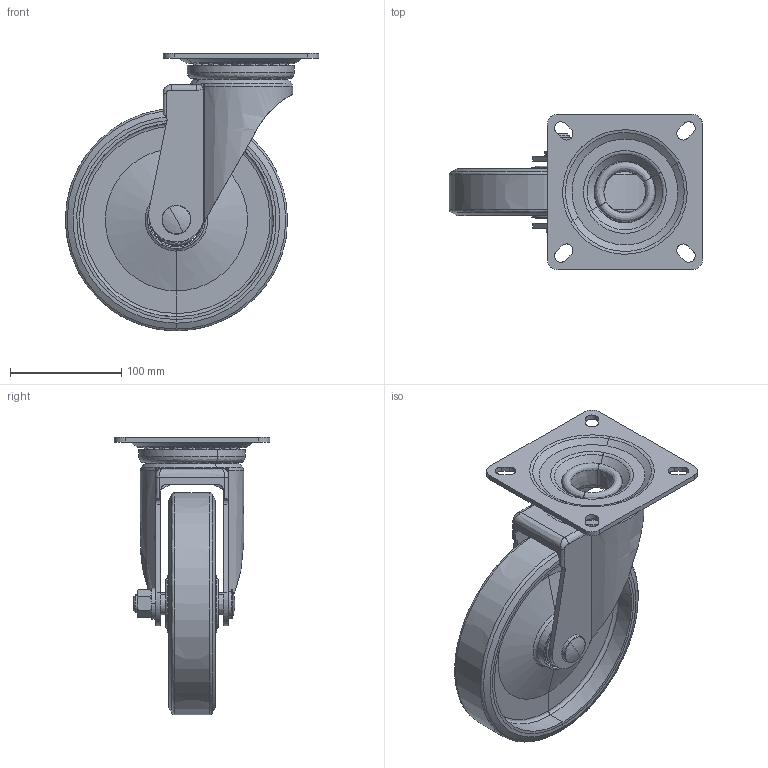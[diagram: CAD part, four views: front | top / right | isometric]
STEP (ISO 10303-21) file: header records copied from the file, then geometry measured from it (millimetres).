
FILE_DESCRIPTION (( 'STEP AP214' ), '1' );
FILE_NAME ('P-200WJ.STEP', '2022-09-22T07:11:57', ( '' ), ( '' ), 'SwSTEP 2.0', 'SolidWorks 2010', '' );
FILE_SCHEMA (( 'AUTOMOTIVE_DESIGN' ));
Length unit declared in the file: millimetre
Products named in the file (11): P-200WJ-10; P-200WJ-15; P-200WJ-20; P-200WJ-30; P-200WJ-35; P-200WJ-40; P-200WJ-45; P-200WJ-50; P-200WJ-55; P-200WJ-60; P-200WJ
Assembly tree (10 placements, depth 2):
  P-200WJ
    P-200WJ-35
    P-200WJ-60
    P-200WJ-20
    P-200WJ-10
    P-200WJ-40
    P-200WJ-15
    P-200WJ-50
    P-200WJ-30
    P-200WJ-45
    P-200WJ-55
Bounding box: 228 x 140 x 250 mm (x, y, z)
Volume: 739326.7 mm3; surface area: 372885.9 mm2
Topology: 53 solids, 53 shells, 502 faces, 2567 edges, 2011 vertices
Faces by surface type: bspline 392, plane 110
Entity records: 101797 total; most frequent: CARTESIAN_POINT 85383, ORIENTED_EDGE 4802, EDGE_CURVE 2401, B_SPLINE_CURVE_WITH_KNOTS 2140, VERTEX_POINT 2011, EDGE_LOOP 544, DIRECTION 507, ADVANCED_FACE 502
